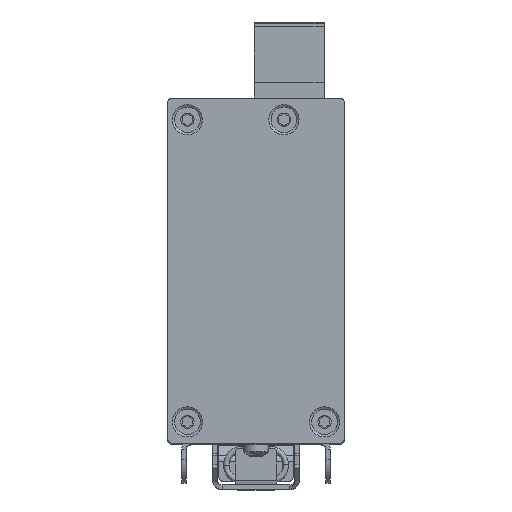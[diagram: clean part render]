
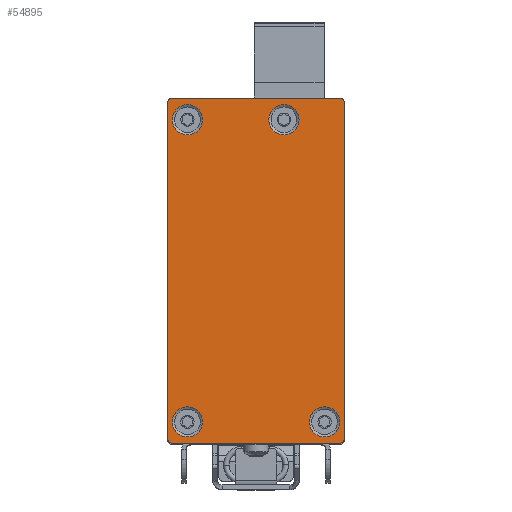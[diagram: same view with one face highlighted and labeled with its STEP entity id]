
A CAD part, top view. The second image highlights one B-rep face of the part: STEP entity #54895.
In plain terms, the highlighted planar face has unit normal (0, 0, 1).
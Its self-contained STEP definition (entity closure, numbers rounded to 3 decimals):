
#54690=CARTESIAN_POINT('',(-18.,37.05,72.5));
#54691=VERTEX_POINT('',#54690);
#54698=CARTESIAN_POINT('',(18.,37.05,72.5));
#54699=VERTEX_POINT('',#54698);
#54700=CARTESIAN_POINT('',(18.,37.05,72.5));
#54701=DIRECTION('',(-1.,0.,0.));
#54702=VECTOR('',#54701,36.);
#54703=LINE('',#54700,#54702);
#54704=EDGE_CURVE('',#54699,#54691,#54703,.T.);
#54721=CARTESIAN_POINT('',(-19.,36.05,72.5));
#54722=VERTEX_POINT('',#54721);
#54723=CARTESIAN_POINT('',(-19.,-36.15,72.5));
#54724=VERTEX_POINT('',#54723);
#54725=CARTESIAN_POINT('',(-19.,36.05,72.5));
#54726=DIRECTION('',(0.,-1.,0.));
#54727=VECTOR('',#54726,72.2);
#54728=LINE('',#54725,#54727);
#54729=EDGE_CURVE('',#54722,#54724,#54728,.T.);
#54753=CARTESIAN_POINT('',(-18.,-37.15,72.5));
#54754=VERTEX_POINT('',#54753);
#54755=CARTESIAN_POINT('',(18.,-37.15,72.5));
#54756=VERTEX_POINT('',#54755);
#54757=CARTESIAN_POINT('',(-18.,-37.15,72.5));
#54758=DIRECTION('',(1.,0.,-0.));
#54759=VECTOR('',#54758,36.);
#54760=LINE('',#54757,#54759);
#54761=EDGE_CURVE('',#54754,#54756,#54760,.T.);
#54786=CARTESIAN_POINT('',(19.,36.05,72.5));
#54787=VERTEX_POINT('',#54786);
#54794=CARTESIAN_POINT('',(19.,-36.15,72.5));
#54795=VERTEX_POINT('',#54794);
#54796=CARTESIAN_POINT('',(19.,-36.15,72.5));
#54797=DIRECTION('',(-0.,1.,0.));
#54798=VECTOR('',#54797,72.2);
#54799=LINE('',#54796,#54798);
#54800=EDGE_CURVE('',#54795,#54787,#54799,.T.);
#54812=CARTESIAN_POINT('',(0.,-0.05,72.5));
#54813=DIRECTION('',(0.,0.,1.));
#54814=DIRECTION('',(-1.,0.,0.));
#54815=AXIS2_PLACEMENT_3D('',#54812,#54813,#54814);
#54816=PLANE('',#54815);
#54817=CARTESIAN_POINT('',(6.,29.2,72.5));
#54818=VERTEX_POINT('',#54817);
#54819=CARTESIAN_POINT('',(6.,32.45,72.5));
#54820=DIRECTION('',(0.,0.,-1.));
#54821=DIRECTION('',(0.,-1.,0.));
#54822=AXIS2_PLACEMENT_3D('',#54819,#54820,#54821);
#54823=CIRCLE('',#54822,3.25);
#54824=EDGE_CURVE('',#54818,#54818,#54823,.T.);
#54825=ORIENTED_EDGE('',*,*,#54824,.T.);
#54826=EDGE_LOOP('',(#54825));
#54827=FACE_BOUND('',#54826,.T.);
#54828=CARTESIAN_POINT('',(-14.75,-35.8,72.5));
#54829=VERTEX_POINT('',#54828);
#54830=CARTESIAN_POINT('',(-14.75,-32.55,72.5));
#54831=DIRECTION('',(0.,0.,-1.));
#54832=DIRECTION('',(0.,-1.,0.));
#54833=AXIS2_PLACEMENT_3D('',#54830,#54831,#54832);
#54834=CIRCLE('',#54833,3.25);
#54835=EDGE_CURVE('',#54829,#54829,#54834,.T.);
#54836=ORIENTED_EDGE('',*,*,#54835,.T.);
#54837=EDGE_LOOP('',(#54836));
#54838=FACE_BOUND('',#54837,.T.);
#54839=CARTESIAN_POINT('',(14.75,-35.8,72.5));
#54840=VERTEX_POINT('',#54839);
#54841=CARTESIAN_POINT('',(14.75,-32.55,72.5));
#54842=DIRECTION('',(0.,0.,-1.));
#54843=DIRECTION('',(0.,-1.,0.));
#54844=AXIS2_PLACEMENT_3D('',#54841,#54842,#54843);
#54845=CIRCLE('',#54844,3.25);
#54846=EDGE_CURVE('',#54840,#54840,#54845,.T.);
#54847=ORIENTED_EDGE('',*,*,#54846,.T.);
#54848=EDGE_LOOP('',(#54847));
#54849=FACE_BOUND('',#54848,.T.);
#54850=CARTESIAN_POINT('',(-14.75,29.2,72.5));
#54851=VERTEX_POINT('',#54850);
#54852=CARTESIAN_POINT('',(-14.75,32.45,72.5));
#54853=DIRECTION('',(0.,0.,-1.));
#54854=DIRECTION('',(0.,-1.,0.));
#54855=AXIS2_PLACEMENT_3D('',#54852,#54853,#54854);
#54856=CIRCLE('',#54855,3.25);
#54857=EDGE_CURVE('',#54851,#54851,#54856,.T.);
#54858=ORIENTED_EDGE('',*,*,#54857,.T.);
#54859=EDGE_LOOP('',(#54858));
#54860=FACE_BOUND('',#54859,.T.);
#54861=ORIENTED_EDGE('',*,*,#54704,.T.);
#54862=CARTESIAN_POINT('',(-18.,36.05,72.5));
#54863=DIRECTION('',(0.,0.,1.));
#54864=DIRECTION('',(1.,0.,-0.));
#54865=AXIS2_PLACEMENT_3D('',#54862,#54863,#54864);
#54866=CIRCLE('',#54865,1.);
#54867=EDGE_CURVE('',#54691,#54722,#54866,.T.);
#54868=ORIENTED_EDGE('',*,*,#54867,.T.);
#54869=ORIENTED_EDGE('',*,*,#54729,.T.);
#54870=CARTESIAN_POINT('',(-18.,-36.15,72.5));
#54871=DIRECTION('',(0.,0.,1.));
#54872=DIRECTION('',(1.,0.,-0.));
#54873=AXIS2_PLACEMENT_3D('',#54870,#54871,#54872);
#54874=CIRCLE('',#54873,1.);
#54875=EDGE_CURVE('',#54724,#54754,#54874,.T.);
#54876=ORIENTED_EDGE('',*,*,#54875,.T.);
#54877=ORIENTED_EDGE('',*,*,#54761,.T.);
#54878=CARTESIAN_POINT('',(18.,-36.15,72.5));
#54879=DIRECTION('',(0.,0.,1.));
#54880=DIRECTION('',(1.,0.,-0.));
#54881=AXIS2_PLACEMENT_3D('',#54878,#54879,#54880);
#54882=CIRCLE('',#54881,1.);
#54883=EDGE_CURVE('',#54756,#54795,#54882,.T.);
#54884=ORIENTED_EDGE('',*,*,#54883,.T.);
#54885=ORIENTED_EDGE('',*,*,#54800,.T.);
#54886=CARTESIAN_POINT('',(18.,36.05,72.5));
#54887=DIRECTION('',(0.,0.,1.));
#54888=DIRECTION('',(1.,0.,-0.));
#54889=AXIS2_PLACEMENT_3D('',#54886,#54887,#54888);
#54890=CIRCLE('',#54889,1.);
#54891=EDGE_CURVE('',#54787,#54699,#54890,.T.);
#54892=ORIENTED_EDGE('',*,*,#54891,.T.);
#54893=EDGE_LOOP('',(#54861,#54868,#54869,#54876,#54877,#54884,#54885,#54892));
#54894=FACE_BOUND('',#54893,.T.);
#54895=ADVANCED_FACE('',(#54827,#54838,#54849,#54860,#54894),#54816,.T.);
